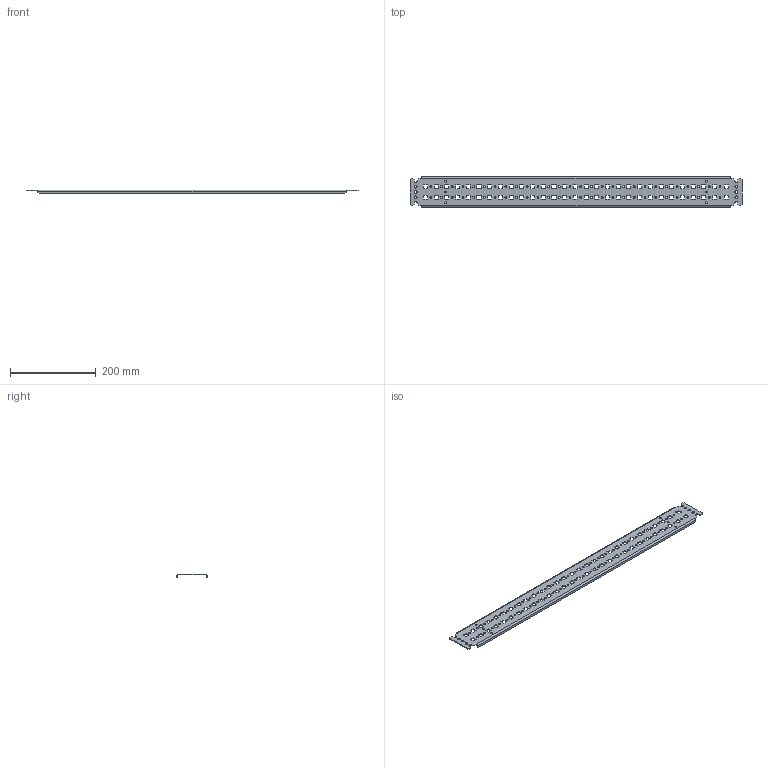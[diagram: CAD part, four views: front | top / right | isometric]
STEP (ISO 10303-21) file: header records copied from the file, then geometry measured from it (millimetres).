
FILE_DESCRIPTION (( 'STEP AP214' ), '1' );
FILE_NAME ('MG 80.06 R Ðåéêà ìîíòàæíàÿ.STEP', '2022-09-07T09:00:15', ( '' ), ( '' ), 'SwSTEP 2.0', 'SolidWorks 2018', '' );
FILE_SCHEMA (( 'AUTOMOTIVE_DESIGN' ));
Length unit declared in the file: millimetre
Products named in the file (1): MG 80.06 R Ðåéêà ìîíòàæíàÿ
Bounding box: 775 x 70.91 x 9.3 mm (x, y, z)
Volume: 113451.6 mm3; surface area: 123087.3 mm2
Topology: 1 solids, 1 shells, 658 faces, 1952 edges, 1296 vertices
Faces by surface type: cylinder 376, plane 282
Entity records: 22818 total; most frequent: DIRECTION 4022, CARTESIAN_POINT 3907, ORIENTED_EDGE 3904, EDGE_CURVE 1952, AXIS2_PLACEMENT_3D 1411, VERTEX_POINT 1296, VECTOR 1200, LINE 1200
